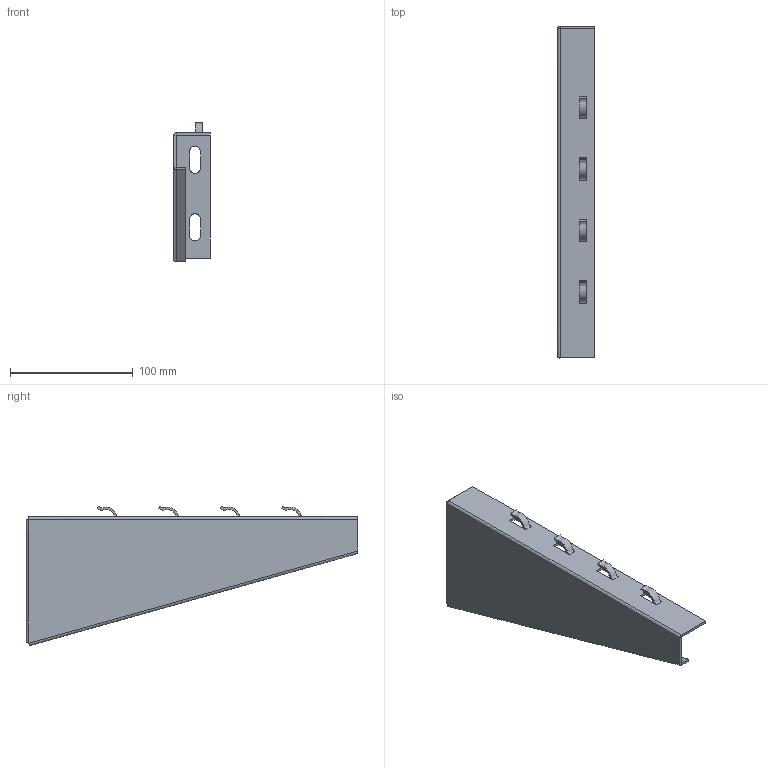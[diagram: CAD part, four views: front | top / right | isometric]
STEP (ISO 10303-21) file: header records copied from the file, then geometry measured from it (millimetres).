
FILE_DESCRIPTION(/* description */ (''),/* implementation_level */ '2;1');
FILE_NAME(/* name */ 'NZM250',/* time_stamp */ '2012-11-29T22:26:09+01:00',/* author */ (''),/* organization */ (''),/* preprocessor_version */ 'ST-DEVELOPER v10',/* originating_system */ '',/* authorisation */ '');
FILE_SCHEMA (('AUTOMOTIVE_DESIGN_CC2'));
Length unit declared in the file: millimetre
Products named in the file (1): 1
Bounding box: 30 x 270 x 113.4 mm (x, y, z)
Surface area: 63079.2 mm2 (no closed solid volume)
Topology: 0 solids, 72 shells, 72 faces, 343 edges, 342 vertices
Faces by surface type: plane 56, bspline 16
Entity records: 4549 total; most frequent: CARTESIAN_POINT 2140, ORIENTED_EDGE 342, EDGE_CURVE 342, VERTEX_POINT 342, B_SPLINE_CURVE_WITH_KNOTS 230, EDGE_LOOP 84, COLOUR_RGB 72, FILL_AREA_STYLE_COLOUR 72
